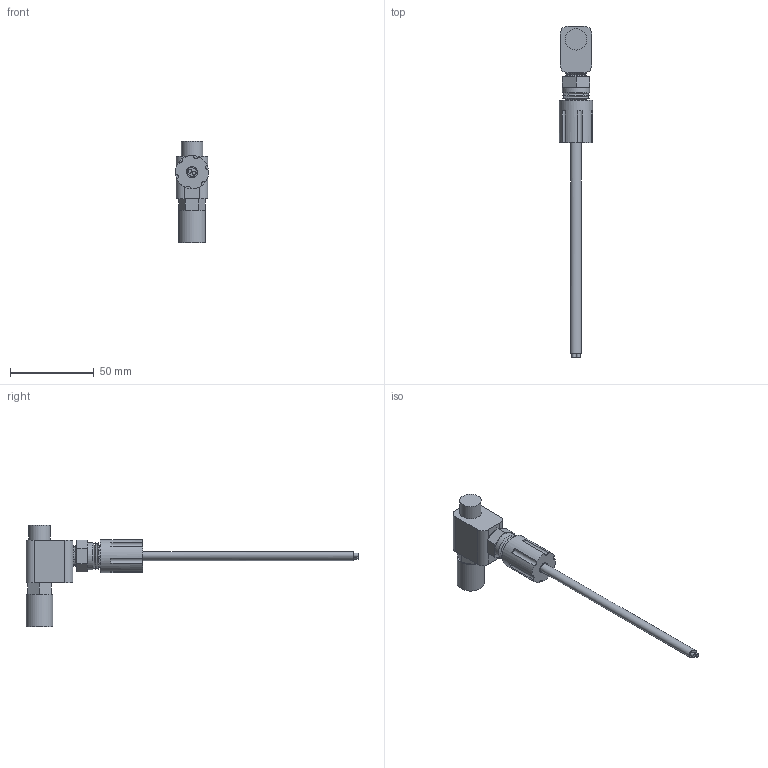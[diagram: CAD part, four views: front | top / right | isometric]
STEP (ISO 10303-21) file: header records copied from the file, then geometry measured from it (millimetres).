
FILE_DESCRIPTION (( 'STEP AP214' ), '1' );
FILE_NAME ('Leak Detect Assembly.STEP', '2013-04-24T15:06:58', ( '' ), ( '' ), 'SwSTEP 2.0', 'SolidWorks 2012', '' );
FILE_SCHEMA (( 'AUTOMOTIVE_DESIGN' ));
Length unit declared in the file: inch
Products named in the file (1): Leak Detect Assembly
Bounding box: 19.81 x 198.14 x 60.55 mm (x, y, z)
Volume: 32820.4 mm3; surface area: 10842.6 mm2
Topology: 1 solids, 1 shells, 76 faces, 181 edges, 114 vertices
Faces by surface type: plane 47, cylinder 19, cone 9, bspline 1
Full cylindrical faces by diameter (mm): 1.6 x1, 2.362 x2, 6.604 x1, 12.725 x2, 16.104 x1, 16.256 x1, 19.812 x1
Entity records: 2908 total; most frequent: CARTESIAN_POINT 448, DIRECTION 370, ORIENTED_EDGE 308, EDGE_CURVE 154, AXIS2_PLACEMENT_3D 147, VERTEX_POINT 106, EDGE_LOOP 104, FACE_OUTER_BOUND 86
